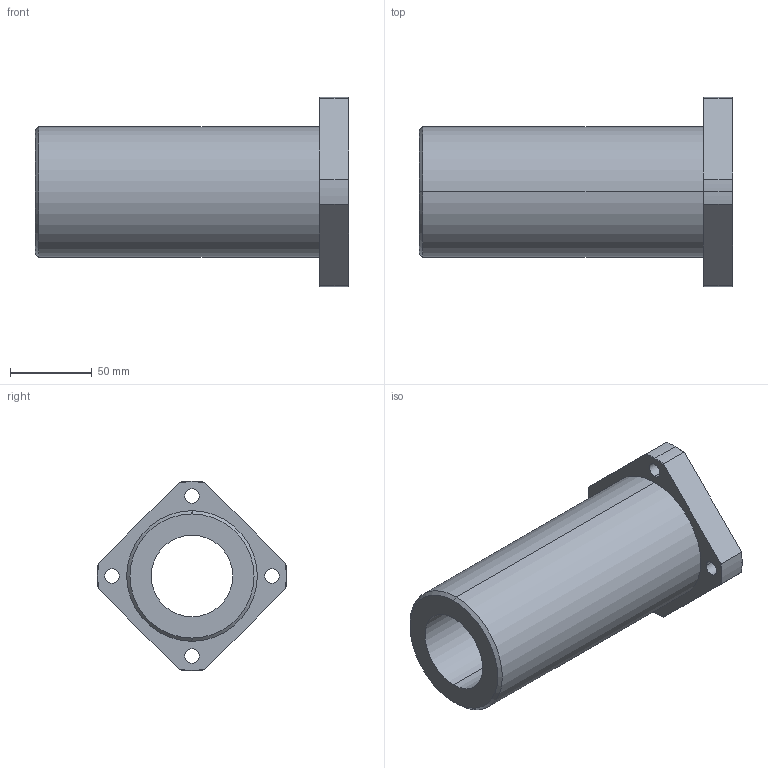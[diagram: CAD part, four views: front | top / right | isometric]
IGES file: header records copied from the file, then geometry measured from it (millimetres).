
Start section: 3D InterOp IGES (Version 21 0 1), Spatial Corp. Copyright (c) 1999-2007.
Global section: file name: DFPJ50.igs; native system: Spatial Corp.; preprocessor: 3D InterOp GENERIC/IGES 3.0; author: Noname; organization: Noname; date: 20220324.140250; units: millimetre
Bounding box: 192 x 115.89 x 116 mm (x, y, z)
Surface area: 94369.8 mm2 (no closed solid volume)
Topology: 0 solids, 0 shells, 48 faces, 240 edges, 240 vertices
Faces by surface type: revolution 37, extrusion 11
